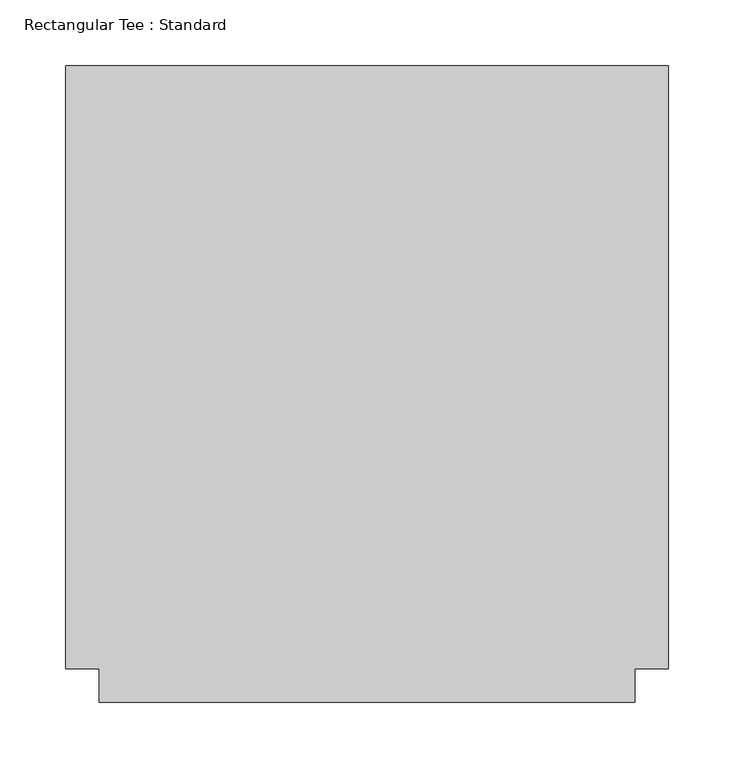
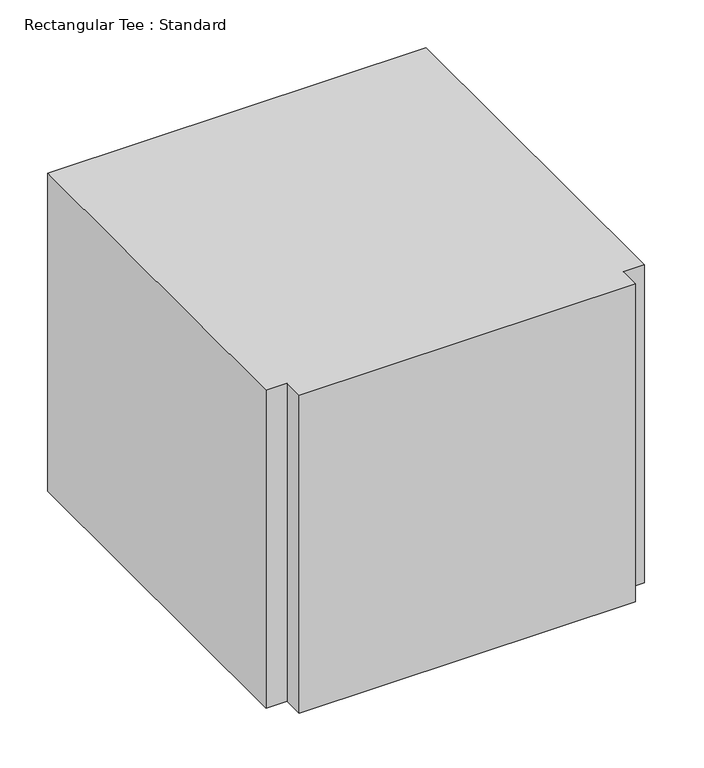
"""IFC4 building model written with IfcOpenShell, lengths in millimetres: duct fitting geometry, Rectangular Tee : Standard."""

from ifc_helpers import new_model, si_unit, frame, origin, place, context, project, spatial, polyline, outline, extrude, source, transform, mapped, element, save


def rectangular_tee_standard_72282cb7(model_context):
    return source(origin(), model_context, "Body", "SweptSolid", [
        extrude(outline(polyline([(-228.6, -228.6), (-228.6, 228.6), (228.6, 228.6), (228.6, -228.6), (203.2, -228.6), (203.2, -254.0), (-203.2, -254.0), (-203.2, -228.6), (-228.6, -228.6)])), frame((0.0, 0.0, -203.2), z_axis=(0.0, 0.0, 1.0), x_axis=(1.0, 0.0, 0.0)), (0.0, 0.0, 1.0), 406.4),
    ])


if __name__ == "__main__":
    model = new_model("IFC4")
    model_context = context("Model", 3, world=origin())
    ifc_project = project(units=[si_unit("LENGTHUNIT", "METRE", prefix="MILLI")], contexts=[model_context])
    site = spatial("IfcSite", under=ifc_project)
    building = spatial("IfcBuilding", under=site)
    placement = place(None, origin())
    rectangular_tee_standard_shape = rectangular_tee_standard_72282cb7(model_context)
    element("IfcDuctFitting", 1, ObjectType="Rectangular Tee : Standard", at=placement, inside=building, context=model_context, shape_type="MappedRepresentation", body=[
        mapped(rectangular_tee_standard_shape, transform((0.0, 0.0, 0.0), x_axis=(1.0, 0.0, 0.0), y_axis=(0.0, 1.0, 0.0), z_axis=(0.0, 0.0, 1.0))),
    ])
    save(model, "model.ifc")
